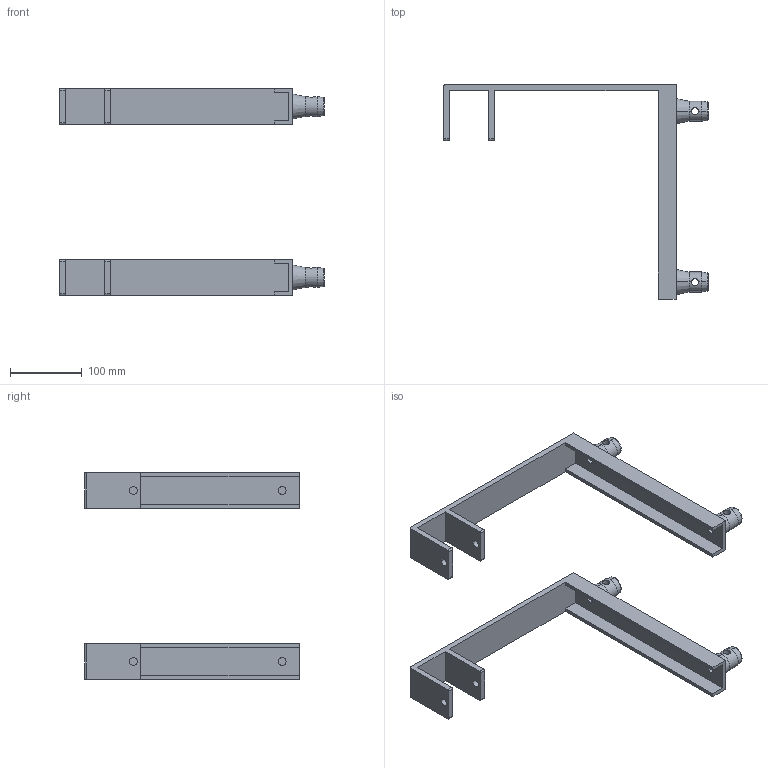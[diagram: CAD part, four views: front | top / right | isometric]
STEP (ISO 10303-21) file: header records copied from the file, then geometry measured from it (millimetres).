
FILE_DESCRIPTION (( 'STEP AP203' ), '1' );
FILE_NAME ('L290C.STEP', '2009-10-23T14:49:24', ( 'CEDIA' ), ( 'CEDIA INDUSTRIE' ), 'SwSTEP 2.0', 'SolidWorks 2009', '' );
FILE_SCHEMA (( 'CONFIG_CONTROL_DESIGN' ));
Length unit declared in the file: millimetre
Products named in the file (1): L290C
Bounding box: 370 x 300 x 289 mm (x, y, z)
Volume: 741896 mm3; surface area: 238663.2 mm2
Topology: 2 solids, 2 shells, 118 faces, 294 edges, 180 vertices
Faces by surface type: cylinder 50, plane 44, cone 16, torus 8
Entity records: 4181 total; most frequent: CARTESIAN_POINT 1217, DIRECTION 624, ORIENTED_EDGE 588, EDGE_CURVE 294, AXIS2_PLACEMENT_3D 227, VERTEX_POINT 180, VECTOR 170, LINE 170
